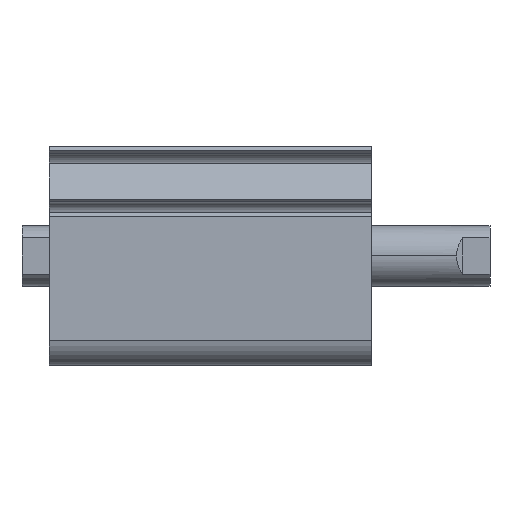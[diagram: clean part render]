
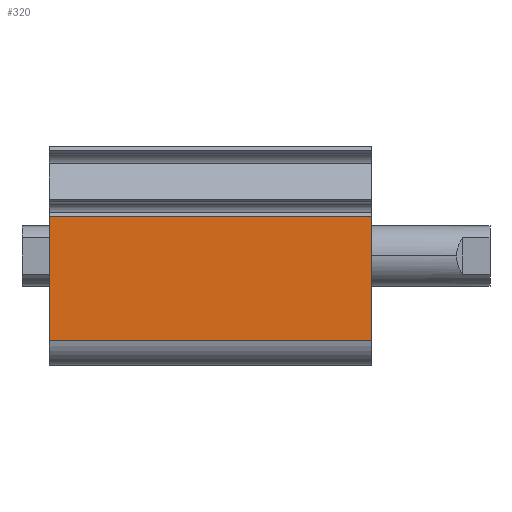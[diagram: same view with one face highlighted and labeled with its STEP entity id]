
A CAD part, top view. The second image highlights one B-rep face of the part: STEP entity #320.
In plain terms, the highlighted planar face has unit normal (0, 0, 1).
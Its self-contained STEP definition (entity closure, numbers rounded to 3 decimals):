
#1 = EDGE_CURVE ( 'NONE', #2338, #178, #2391, .T. ) ;
#31 = CARTESIAN_POINT ( 'NONE',  ( 53., -13.98, 18. ) ) ;
#83 = VECTOR ( 'NONE', #3212, 1000. ) ;
#178 = VERTEX_POINT ( 'NONE', #3118 ) ;
#204 = CARTESIAN_POINT ( 'NONE',  ( 53., 6.466, 18. ) ) ;
#225 = ORIENTED_EDGE ( 'NONE', *, *, #2013, .T. ) ;
#243 = CARTESIAN_POINT ( 'NONE',  ( 53., 6.466, 18. ) ) ;
#313 = CARTESIAN_POINT ( 'NONE',  ( 53., -13.98, 18. ) ) ;
#318 = AXIS2_PLACEMENT_3D ( 'NONE', #204, #2086, #982 ) ;
#320 = ADVANCED_FACE ( 'NONE', ( #2347 ), #1028, .F. ) ;
#342 = CARTESIAN_POINT ( 'NONE',  ( 0., 6.466, 18. ) ) ;
#430 = VECTOR ( 'NONE', #2131, 1000. ) ;
#770 = LINE ( 'NONE', #1865, #3393 ) ;
#794 = LINE ( 'NONE', #3412, #999 ) ;
#912 = VERTEX_POINT ( 'NONE', #2467 ) ;
#982 = DIRECTION ( 'NONE',  ( 0., -1., 0. ) ) ;
#999 = VECTOR ( 'NONE', #1849, 1000. ) ;
#1028 = PLANE ( 'NONE',  #318 ) ;
#1351 = LINE ( 'NONE', #342, #83 ) ;
#1486 = ORIENTED_EDGE ( 'NONE', *, *, #1, .F. ) ;
#1791 = DIRECTION ( 'NONE',  ( 0., -1., 0. ) ) ;
#1849 = DIRECTION ( 'NONE',  ( -1., 0., 0. ) ) ;
#1865 = CARTESIAN_POINT ( 'NONE',  ( 53., 6.466, 18. ) ) ;
#2013 = EDGE_CURVE ( 'NONE', #3394, #912, #794, .T. ) ;
#2086 = DIRECTION ( 'NONE',  ( 0., 0., -1. ) ) ;
#2131 = DIRECTION ( 'NONE',  ( -1., 0., 0. ) ) ;
#2148 = EDGE_CURVE ( 'NONE', #912, #178, #1351, .T. ) ;
#2227 = EDGE_CURVE ( 'NONE', #3394, #2338, #770, .T. ) ;
#2338 = VERTEX_POINT ( 'NONE', #313 ) ;
#2347 = FACE_OUTER_BOUND ( 'NONE', #2570, .T. ) ;
#2366 = ORIENTED_EDGE ( 'NONE', *, *, #2227, .F. ) ;
#2391 = LINE ( 'NONE', #31, #430 ) ;
#2467 = CARTESIAN_POINT ( 'NONE',  ( 0., 6.466, 18. ) ) ;
#2570 = EDGE_LOOP ( 'NONE', ( #3077, #1486, #2366, #225 ) ) ;
#3077 = ORIENTED_EDGE ( 'NONE', *, *, #2148, .T. ) ;
#3118 = CARTESIAN_POINT ( 'NONE',  ( 0., -13.98, 18. ) ) ;
#3212 = DIRECTION ( 'NONE',  ( 0., -1., 0. ) ) ;
#3393 = VECTOR ( 'NONE', #1791, 1000. ) ;
#3394 = VERTEX_POINT ( 'NONE', #243 ) ;
#3412 = CARTESIAN_POINT ( 'NONE',  ( 53., 6.466, 18. ) ) ;
